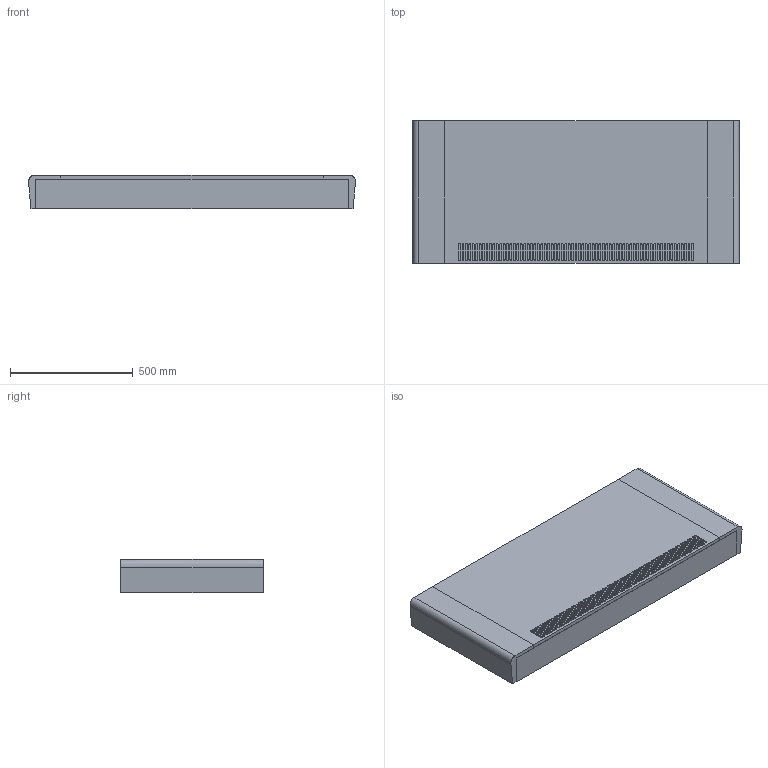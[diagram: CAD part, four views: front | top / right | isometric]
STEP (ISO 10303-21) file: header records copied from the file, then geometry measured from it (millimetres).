
FILE_DESCRIPTION (( 'STEP AP214' ), '1' );
FILE_NAME ('PFWSL_round_model04_4-pipe_v2.STEP', '2024-11-11T13:52:13', ( '' ), ( '' ), 'SwSTEP 2.0', 'SolidWorks 2023', '' );
FILE_SCHEMA (( 'AUTOMOTIVE_DESIGN' ));
Length unit declared in the file: inch
Products named in the file (1): PFWSL_round_model04_4-pipe_v2
Bounding box: 1333.46 x 582.61 x 134.94 mm (x, y, z)
Volume: 82684312.7 mm3; surface area: 4110164 mm2
Topology: 25 solids, 25 shells, 604 faces, 1596 edges, 1060 vertices
Faces by surface type: plane 360, cylinder 234, torus 8, bspline 2
Entity records: 19423 total; most frequent: CARTESIAN_POINT 3287, DIRECTION 3278, ORIENTED_EDGE 3192, EDGE_CURVE 1596, LINE 1112, VECTOR 1112, AXIS2_PLACEMENT_3D 1083, VERTEX_POINT 1060
